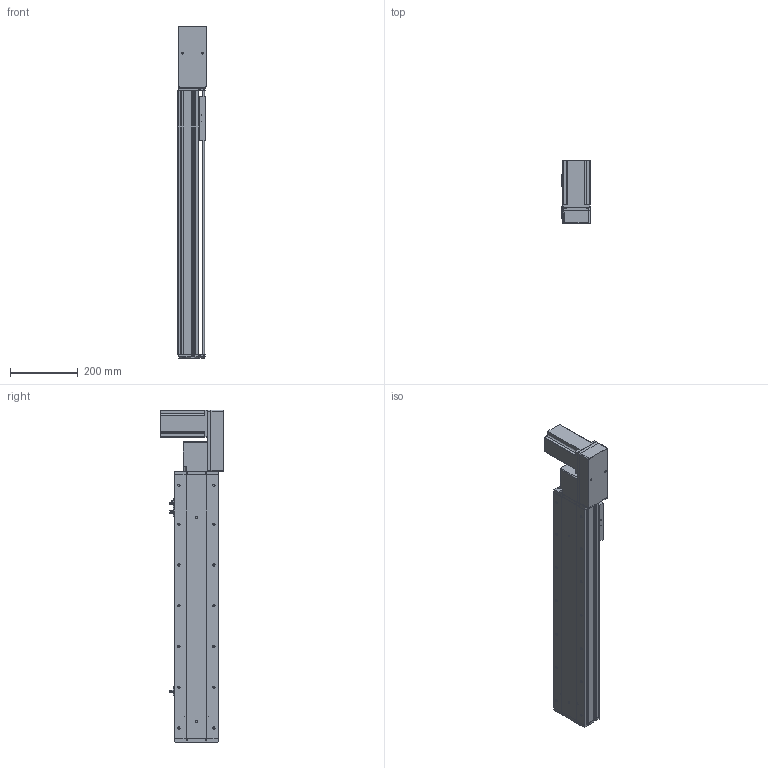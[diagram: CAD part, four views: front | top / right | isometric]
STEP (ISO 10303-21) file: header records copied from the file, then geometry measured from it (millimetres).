
FILE_DESCRIPTION (( 'STEP AP214' ), '1' );
FILE_NAME ('KSD130B-S550-MLB-CM .STEP', '2019-11-14T02:02:21', ( '微软用户' ), ( '微软中国' ), 'SwSTEP 2.0', 'SolidWorks 2014', '' );
FILE_SCHEMA (( 'AUTOMOTIVE_DESIGN' ));
Length unit declared in the file: millimetre
Products named in the file (12): 台达ECMA－C20807AS伺服电机; 130宽模组保护罩上下左右折-同步带; 130宽模组马达安装板连板左右折同步带; 覜茼え100遵圉猾敕; U倰嫖萇EEㄜSX672; 130宽盖板半封闭同步带-550行程; 130宽马达安装板同步带左-改; 130宽马达安装板同步带半封闭; 130宽同步带安装座半封闭; 130宽端盖同步带半封闭; 130宽底板半封闭同步带-550行程; KSD130B-S550-MLB-CM 
Assembly tree (13 placements, depth 2):
  KSD130B-S550-MLB-CM 
    130宽底板半封闭同步带-550行程
    130宽端盖同步带半封闭
    130宽同步带安装座半封闭
    130宽马达安装板同步带半封闭
    130宽马达安装板同步带左-改
    130宽盖板半封闭同步带-550行程
    U倰嫖萇EEㄜSX672  x3
    覜茼え100遵圉猾敕
    130宽模组马达安装板连板左右折同步带
    130宽模组保护罩上下左右折-同步带
    台达ECMA－C20807AS伺服电机
Bounding box: 82.5 x 184.8 x 977 mm (x, y, z)
Volume: 3774322.9 mm3; surface area: 989388.5 mm2
Topology: 14 solids, 14 shells, 1427 faces, 4021 edges, 2581 vertices
Faces by surface type: cylinder 670, plane 610, cone 147
Entity records: 45799 total; most frequent: CARTESIAN_POINT 8238, DIRECTION 7019, ORIENTED_EDGE 6734, EDGE_CURVE 3367, AXIS2_PLACEMENT_3D 2542, VERTEX_POINT 2205, LINE 1935, VECTOR 1935
